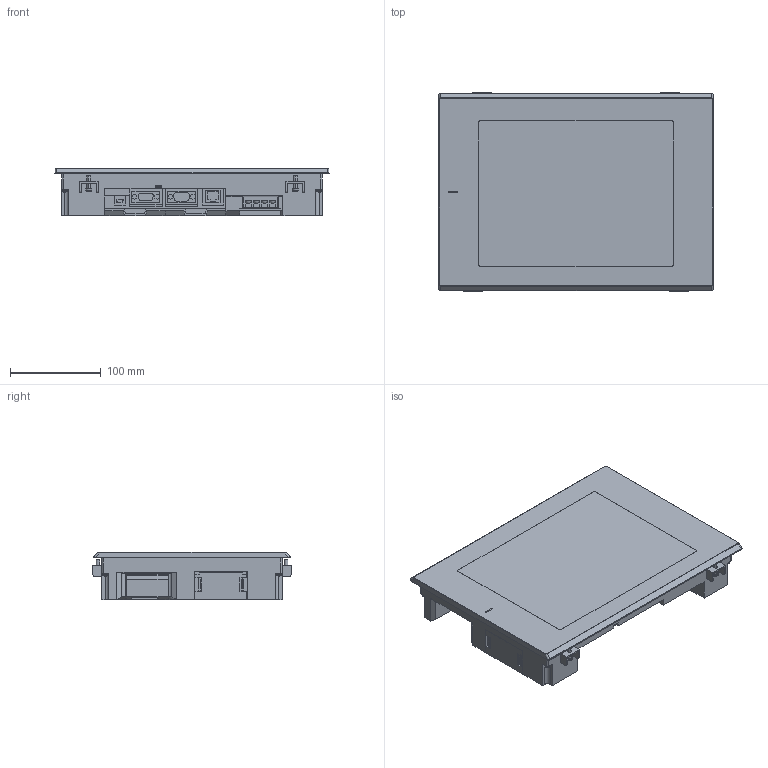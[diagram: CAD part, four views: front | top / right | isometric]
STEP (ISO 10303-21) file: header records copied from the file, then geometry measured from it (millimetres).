
FILE_DESCRIPTION((''),'2;1');
FILE_NAME('GT2710_ASM','2013-09-11T',('KW48605'),(''),'PRO/ENGINEER BY PARAMETRIC TECHNOLOGY CORPORATION, 2011490','PRO/ENGINEER BY PARAMETRIC TECHNOLOGY CORPORATION, 2011490','');
FILE_SCHEMA(('AUTOMOTIVE_DESIGN_CC2 { 1 2 10303 214 -1 1 5 2 }'));
Length unit declared in the file: millimetre
Products named in the file (6): GT2710; COVER_1; COVER_2; COVER_3; TORITUKE; GT2710_ASM
Assembly tree (9 placements, depth 2):
  GT2710_ASM
    GT2710
    COVER_1  x2
    COVER_2
    COVER_3
    TORITUKE  x4
Bounding box: 303 x 219 x 52.05 mm (x, y, z)
Volume: 2586752.4 mm3; surface area: 240916.8 mm2
Topology: 9 solids, 14 shells, 744 faces, 2033 edges, 1346 vertices
Faces by surface type: plane 476, cylinder 178, cone 32, sphere 26, torus 24, bspline 8
Entity records: 22228 total; most frequent: CARTESIAN_POINT 5660, ORIENTED_EDGE 3498, DIRECTION 3295, EDGE_CURVE 1749, VECTOR 1205, LINE 1205, VERTEX_POINT 1174, AXIS2_PLACEMENT_3D 1045
